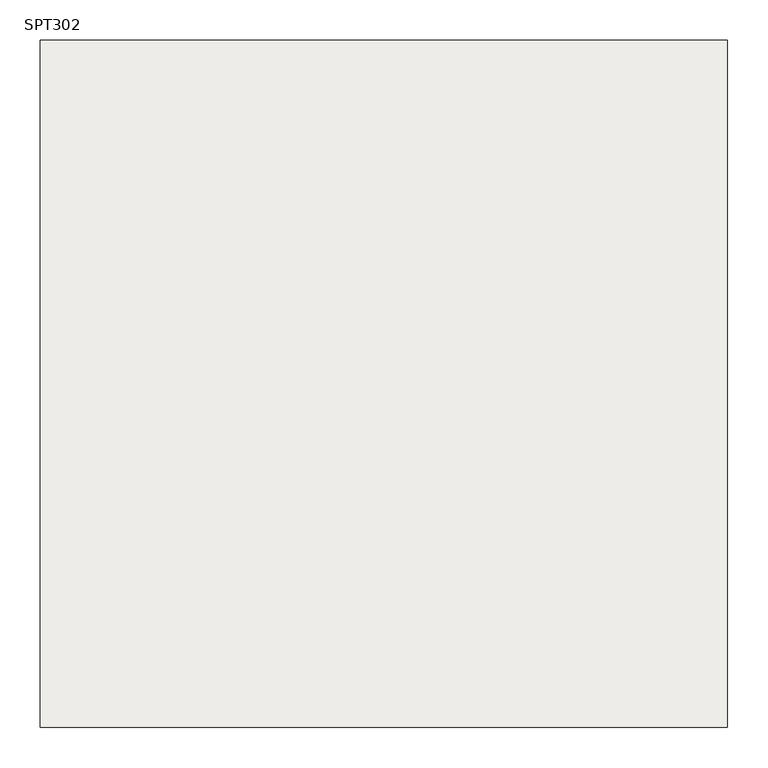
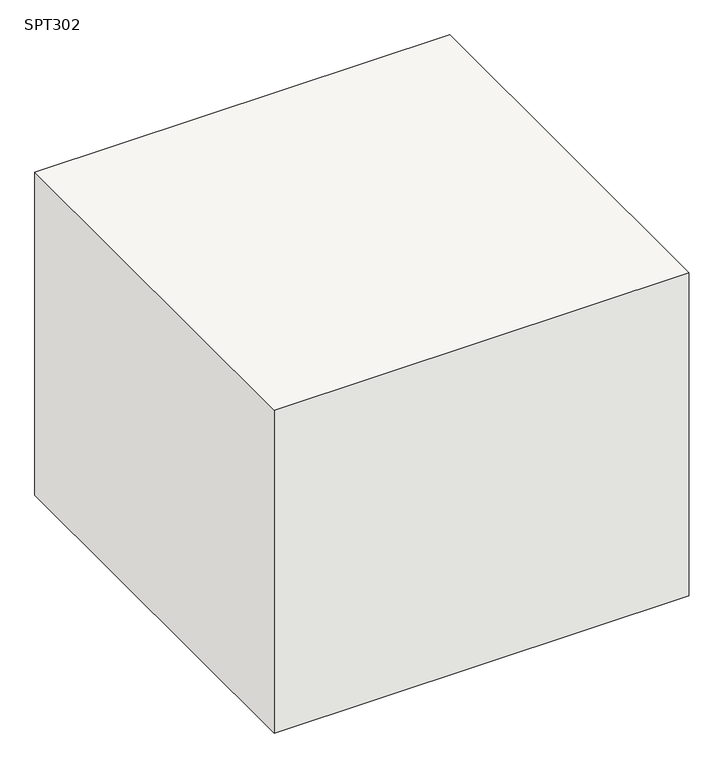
"""IFC4 building model written with IfcOpenShell, lengths in millimetres: slab geometry, 柱形_SPT : SPT302."""

from ifc_helpers import new_model, si_unit, frame, origin, place, context, project, spatial, polyline, outline, extrude, source, transform, mapped, element, save


def spt302_e6ab484a(model_context):
    return source(origin(), model_context, "Body", "SweptSolid", [
        extrude(outline(polyline([(425.0, 425.0), (425.0, -425.0), (-425.0, -425.0), (-425.0, 425.0), (425.0, 425.0)])), frame((0.0, 0.0, -700.0), z_axis=(0.0, 0.0, 1.0), x_axis=(1.0, 0.0, 0.0)), (0.0, 0.0, 1.0), 700.0),
    ])


if __name__ == "__main__":
    model = new_model("IFC4")
    model_context = context("Model", 3, world=origin())
    ifc_project = project(units=[si_unit("LENGTHUNIT", "METRE", prefix="MILLI")], contexts=[model_context])
    site = spatial("IfcSite", under=ifc_project)
    building = spatial("IfcBuilding", under=site)
    placement = place(None, origin())
    spt302_shape = spt302_e6ab484a(model_context)
    element("IfcSlab", 1, ObjectType="柱形_SPT : SPT302", at=placement, inside=building, context=model_context, shape_type="MappedRepresentation", body=[
        mapped(spt302_shape, transform((0.0, 0.0, 0.0), x_axis=(1.0, 0.0, 0.0), y_axis=(0.0, 1.0, 0.0), z_axis=(0.0, 0.0, 1.0))),
    ])
    save(model, "model.ifc")
